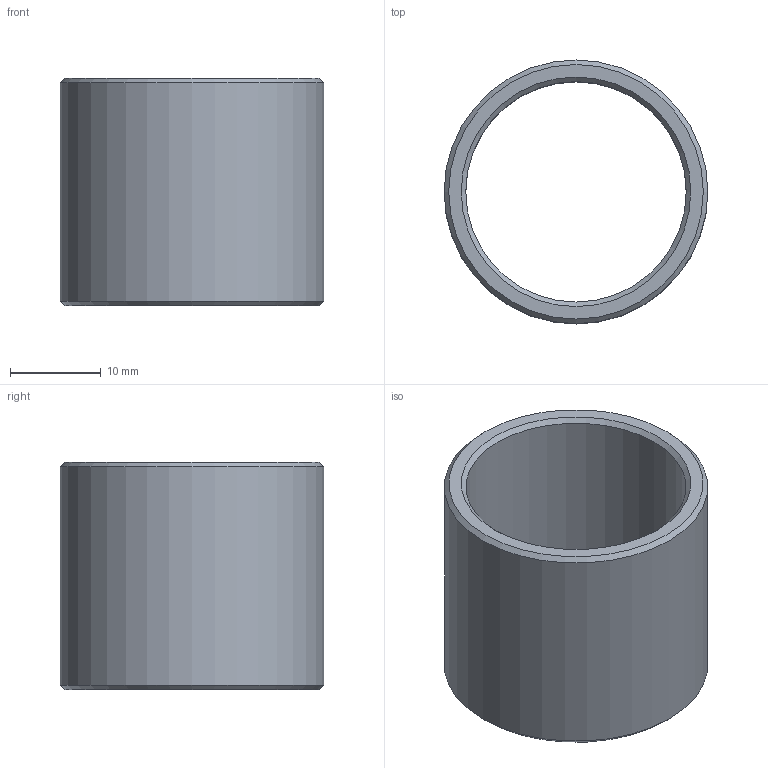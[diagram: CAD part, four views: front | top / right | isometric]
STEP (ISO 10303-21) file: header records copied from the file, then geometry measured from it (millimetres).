
FILE_DESCRIPTION(/* description */ (''),/* implementation_level */ '2;1');
FILE_NAME(/* name */ 'Y:\IvDoronin\- Фотоприемники -\- Модели -\4. Аксесуары для фотоприемников\TNut M25x1\Тубус 25 мм.stp',/* time_stamp */ '2019-08-27T17:11:38+03:00',/* author */ ('svlad'),/* organization */ (''),/* preprocessor_version */ 'ST-DEVELOPER v17',/* originating_system */ 'Autodesk Inventor 2019',/* authorisation */ '');
FILE_SCHEMA (('AUTOMOTIVE_DESIGN { 1 0 10303 214 3 1 1 }'));
Length unit declared in the file: millimetre
Products named in the file (1): Тубус 10 мм
Bounding box: 29 x 29 x 25 mm (x, y, z)
Volume: 4924.6 mm3; surface area: 4481.6 mm2
Topology: 1 solids, 1 shells, 8 faces, 14 edges, 8 vertices
Faces by surface type: cone 4, cylinder 2, plane 2
Full cylindrical faces by diameter (mm): 24.25 x1, 29 x1
Entity records: 231 total; most frequent: DIRECTION 40, CARTESIAN_POINT 31, ORIENTED_EDGE 28, AXIS2_PLACEMENT_3D 17, EDGE_CURVE 14, EDGE_LOOP 10, FACE_OUTER_BOUND 8, CIRCLE 8
